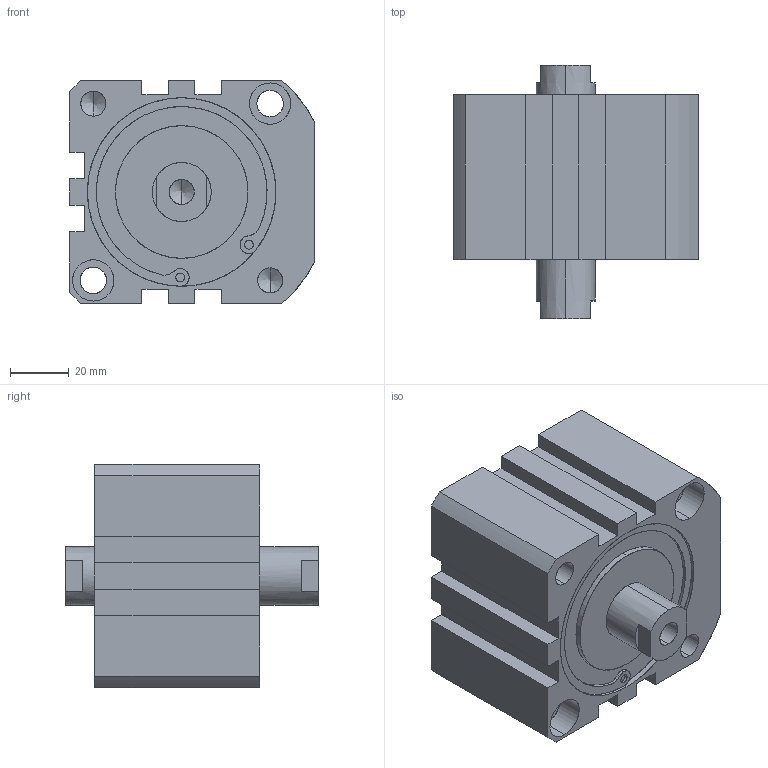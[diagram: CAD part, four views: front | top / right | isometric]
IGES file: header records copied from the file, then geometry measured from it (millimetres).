
Start section: SolidWorks IGES file using analytic representation for surfaces
Global section: file name: C:\Users\Toshiba\Desktop\XC#7-63-10.IGS; native system: SolidWorks 2014; preprocessor: SolidWorks 2014; author: Toshiba; date: 160523.162650; units: millimetre
Bounding box: 83 x 86 x 76 mm (x, y, z)
Surface area: 43651.2 mm2 (no closed solid volume)
Topology: 0 solids, 0 shells, 145 faces, 2650 edges, 2634 vertices
Faces by surface type: revolution 89, bspline 56
